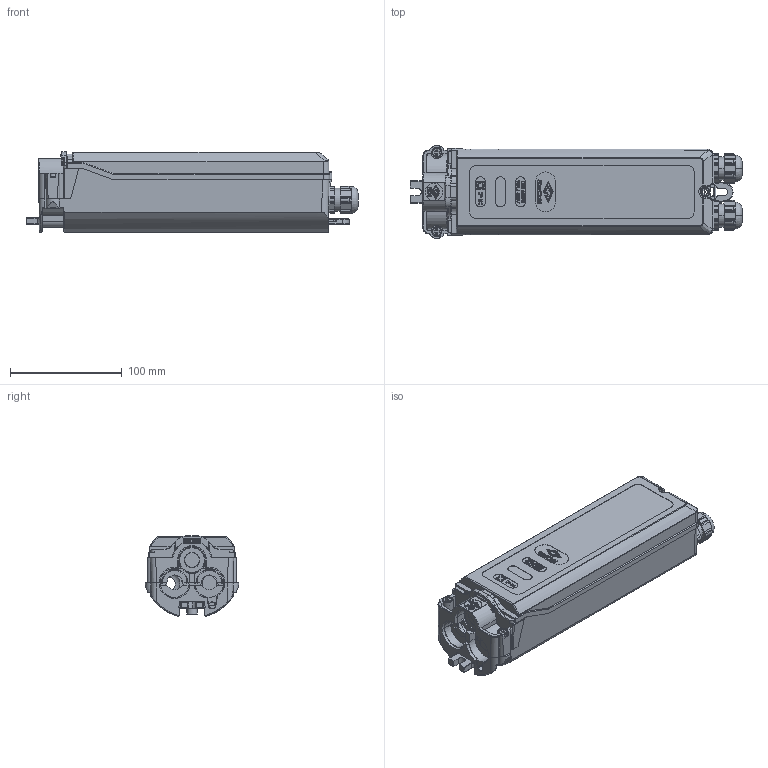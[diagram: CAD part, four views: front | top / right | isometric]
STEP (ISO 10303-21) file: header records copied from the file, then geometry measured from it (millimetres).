
FILE_DESCRIPTION (( 'STEP AP203' ), '1' );
FILE_NAME ('3D - HSW2230-M20 Außenkontur.STEP', '2019-06-19T09:26:57', ( '' ), ( '' ), 'SwSTEP 2.0', 'SolidWorks 2013', '' );
FILE_SCHEMA (( 'CONFIG_CONTROL_DESIGN' ));
Products named in the file (1): 3D - HSW2230-M20 Außenkontur
Bounding box: 297.6 x 83.5 x 71.86 mm (x, y, z)
Surface area: 107646.3 mm2 (no closed solid volume)
Topology: 0 solids, 24 shells, 1175 faces, 4221 edges, 2980 vertices
Faces by surface type: plane 566, cylinder 369, bspline 136, torus 54, cone 40, sphere 10
Entity records: 55936 total; most frequent: CARTESIAN_POINT 22035, ORIENTED_EDGE 6876, DIRECTION 6303, EDGE_CURVE 4215, VERTEX_POINT 2980, VECTOR 2521, LINE 2521, AXIS2_PLACEMENT_3D 1891
